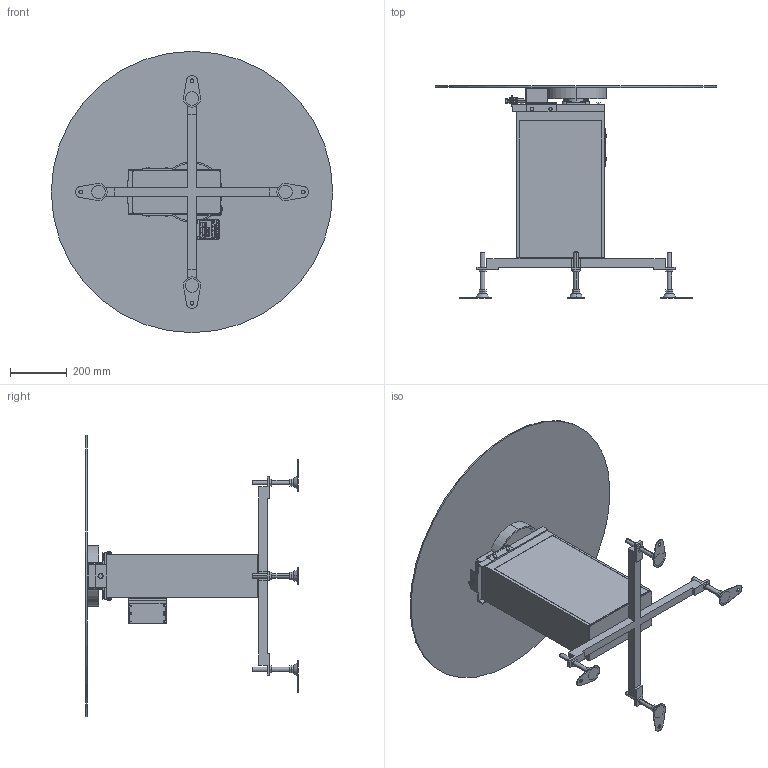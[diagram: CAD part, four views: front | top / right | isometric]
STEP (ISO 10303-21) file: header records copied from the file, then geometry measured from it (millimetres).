
FILE_DESCRIPTION( (''), '2;1');
FILE_NAME ('FIT2-306-1000-□-IVH-180-O.stp','2025-02-17T13:32:38',(''),(''),'spGate 20.6.2 (****-****-****-****)','','');
FILE_SCHEMA (('AUTOMOTIVE_DESIGN'));
Length unit declared in the file: millimetre
Products named in the file (27): NewModel; FIT2-1000; TEMP_X_T-prt0; TEMP_X_T-prt1; TEMP_X_T-prt2; TEMP_X_T-prt3; TEMP_X_T-prt4; TEMP_X_T-prt5; TEMP_X_T-prt6; TEMP_X_T-prt7; TEMP_X_T-prt8; TEMP_X_T-prt9; TEMP_X_T-prt10; TEMP_X_T-prt11; TEMP_X_T-prt12; TEMP_X_T-prt13; TEMP_X_T-prt14; TEMP_X_T-prt15; TEMP_X_T-prt16; TEMP_X_T-prt17; TEMP_X_T-prt18; TEMP_X_T-prt19; TEMP_X_T-prt20; TEMP_X_T-prt21; TEMP_X_T-prt22; TEMP_X_T-prt23; TEMP_X_T-prt24
Assembly tree (26 placements, depth 3):
  NewModel
    FIT2-1000
      TEMP_X_T-prt0
      TEMP_X_T-prt1
      TEMP_X_T-prt2
      TEMP_X_T-prt3
      TEMP_X_T-prt4
      TEMP_X_T-prt5
      TEMP_X_T-prt6
      TEMP_X_T-prt7
      TEMP_X_T-prt8
      TEMP_X_T-prt9
      TEMP_X_T-prt10
      TEMP_X_T-prt11
      TEMP_X_T-prt12
      TEMP_X_T-prt13
      TEMP_X_T-prt14
      TEMP_X_T-prt15
      TEMP_X_T-prt16
      TEMP_X_T-prt17
      TEMP_X_T-prt18
      TEMP_X_T-prt19
      TEMP_X_T-prt20
      TEMP_X_T-prt21
      TEMP_X_T-prt22
      TEMP_X_T-prt23
      TEMP_X_T-prt24
Bounding box: 994 x 750.1 x 994 mm (x, y, z)
Volume: 32358602.5 mm3; surface area: 2843411 mm2
Topology: 25 solids, 25 shells, 1492 faces, 3747 edges, 2422 vertices
Faces by surface type: plane 1080, cylinder 242, bspline 168, sphere 2
Entity records: 77840 total; most frequent: CARTESIAN_POINT 12136, ORIENTED_EDGE 7494, DIRECTION 6668, COLOUR_RGB 5264, PRESENTATION_STYLE_ASSIGNMENT 5264, STYLED_ITEM 5264, EDGE_CURVE 3747, DRAUGHTING_PRE_DEFINED_CURVE_FONT 3747
